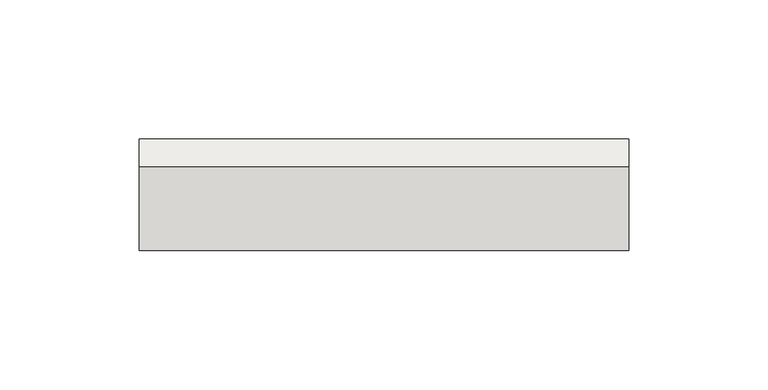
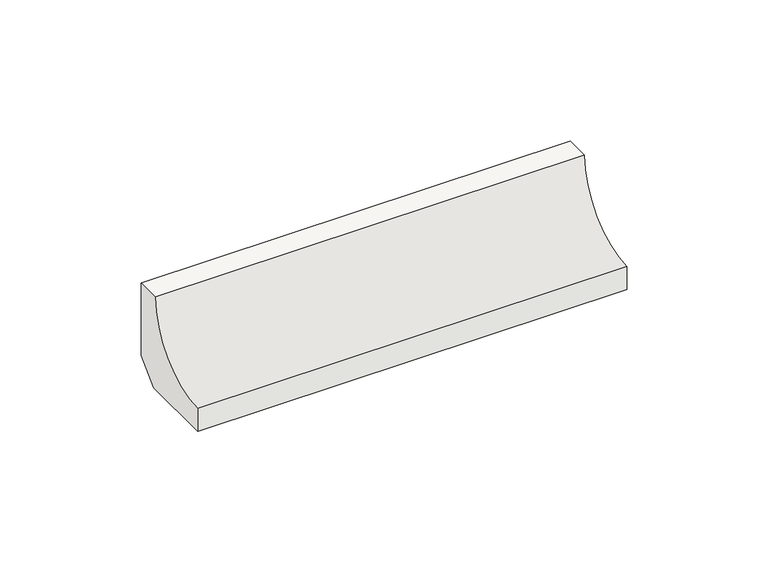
"""IFC4 building model written with IfcOpenShell, lengths in millimetres: slab geometry, ROSA GRES_112 : Pieza 112_Aqua_Marino_Liso."""

from ifc_helpers import new_model, si_unit, point, frame, frame_2d, origin, place, context, project, spatial, polyline, circle_curve, trimmed, segment, composite_curve, outline, extrude, source, transform, mapped, element, save


def slab_5a0b4e5f(model_context):
    return source(origin(), model_context, "Body", "SweptSolid", [
        extrude(outline(composite_curve([segment(polyline([(0.0, 8.7114978), (-8.7114978, 0.0), (-40.0, 0.0), (-40.0, 9.9734114)]), True, "CONTINUOUS"), segment(trimmed(circle_curve(frame_2d((-39.9955547, 39.9955547)), 30.0221435), [point((-40.0, 9.9734114))], [point((-9.9734114, 40.0))], True, "CARTESIAN"), True, "CONTINUOUS"), segment(polyline([(-9.9734114, 40.0), (0.0, 40.0), (0.0, 8.7114978)]), True, "CONTINUOUS")], self_intersect=False)), frame((0.0, 0.0, 0.0), z_axis=(1.0, 0.0, 0.0), x_axis=(0.0, 1.0, 0.0)), (0.0, 0.0, 1.0), 175.461227),
    ])


if __name__ == "__main__":
    model = new_model("IFC4")
    model_context = context("Model", 3, world=origin())
    ifc_project = project(units=[si_unit("LENGTHUNIT", "METRE", prefix="MILLI")], contexts=[model_context])
    site = spatial("IfcSite", under=ifc_project)
    building = spatial("IfcBuilding", under=site)
    placement = place(None, origin())
    slab_shape = slab_5a0b4e5f(model_context)
    element("IfcSlab", 1, ObjectType="ROSA GRES_112 : Pieza 112_Aqua_Marino_Liso", at=placement, inside=building, context=model_context, shape_type="MappedRepresentation", body=[
        mapped(slab_shape, transform((0.0, 0.0, 0.0), x_axis=(1.0, 0.0, 0.0), y_axis=(0.0, 1.0, 0.0), z_axis=(0.0, 0.0, 1.0))),
    ])
    save(model, "model.ifc")
